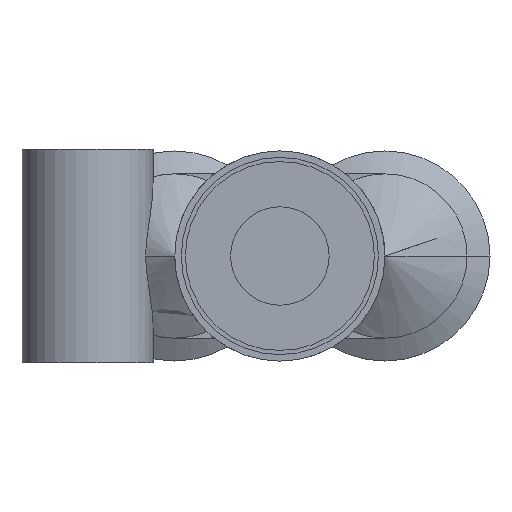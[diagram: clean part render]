
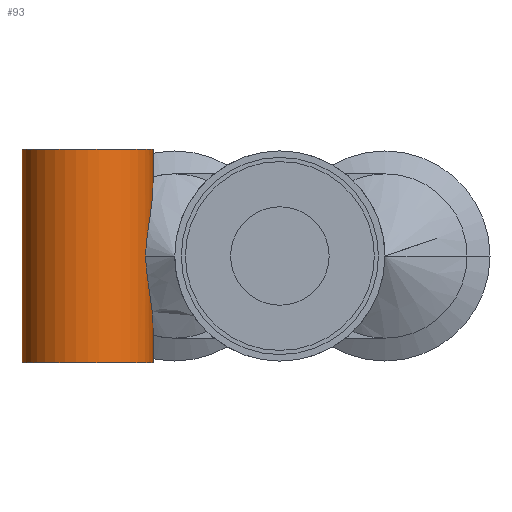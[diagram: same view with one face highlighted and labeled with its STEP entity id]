
A CAD part, front view. The second image highlights one B-rep face of the part: STEP entity #93.
In plain terms, the highlighted cylindrical face has radius 4 mm (diameter 8 mm), a partial arc.
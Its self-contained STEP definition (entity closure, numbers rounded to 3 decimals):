
#93 = ADVANCED_FACE( '', ( #184 ), #185, .T. );
#184 = FACE_OUTER_BOUND( '', #342, .T. );
#185 = CYLINDRICAL_SURFACE( '', #343, 4. );
#342 = EDGE_LOOP( '', ( #600, #601, #602, #603, #604, #605, #606 ) );
#343 = AXIS2_PLACEMENT_3D( '', #607, #608, #609 );
#600 = ORIENTED_EDGE( '', *, *, #1064, .F. );
#601 = ORIENTED_EDGE( '', *, *, #1065, .F. );
#602 = ORIENTED_EDGE( '', *, *, #1066, .F. );
#603 = ORIENTED_EDGE( '', *, *, #1067, .T. );
#604 = ORIENTED_EDGE( '', *, *, #1068, .F. );
#605 = ORIENTED_EDGE( '', *, *, #1011, .F. );
#606 = ORIENTED_EDGE( '', *, *, #1069, .F. );
#607 = CARTESIAN_POINT( '', ( -11.7, 18.3, 6.5 ) );
#608 = DIRECTION( '', ( 0., 0., 1. ) );
#609 = DIRECTION( '', ( 1., 0., 0. ) );
#1011 = EDGE_CURVE( '', #1184, #1187, #1188, .T. );
#1064 = EDGE_CURVE( '', #1285, #1286, #1287, .T. );
#1065 = EDGE_CURVE( '', #1288, #1285, #1289, .T. );
#1066 = EDGE_CURVE( '', #1290, #1288, #1291, .T. );
#1067 = EDGE_CURVE( '', #1290, #1292, #1293, .T. );
#1068 = EDGE_CURVE( '', #1187, #1292, #1294, .T. );
#1069 = EDGE_CURVE( '', #1286, #1184, #1295, .T. );
#1184 = VERTEX_POINT( '', #1446 );
#1187 = VERTEX_POINT( '', #1450 );
#1188 = B_SPLINE_CURVE_WITH_KNOTS( '', 3, ( #1451, #1452, #1453, #1454, #1455, #1456, #1457, #1458, #1459, #1460, #1461, #1462, #1463, #1464, #1465, #1466, #1467, #1468, #1469, #1470, #1471, #1472, #1473, #1474, #1475, #1476 ), .UNSPECIFIED., .F., .F., ( 4, 2, 2, 2, 2, 2, 2, 2, 2, 2, 2, 2, 4 ), ( 1.316, 1.604, 3.209, 4.011, 4.813, 5.616, 6.418, 7.22, 8.022, 8.824, 9.627, 11.231, 11.519 ), .UNSPECIFIED. );
#1285 = VERTEX_POINT( '', #1662 );
#1286 = VERTEX_POINT( '', #1663 );
#1287 = LINE( '', #1664, #1665 );
#1288 = VERTEX_POINT( '', #1666 );
#1289 = CIRCLE( '', #1667, 4. );
#1290 = VERTEX_POINT( '', #1668 );
#1291 = LINE( '', #1669, #1670 );
#1292 = VERTEX_POINT( '', #1671 );
#1293 = CIRCLE( '', #1672, 4. );
#1294 = LINE( '', #1673, #1674 );
#1295 = B_SPLINE_CURVE_WITH_KNOTS( '', 3, ( #1675, #1676, #1677, #1678, #1679, #1680, #1681, #1682, #1683, #1684, #1685, #1686, #1687, #1688, #1689, #1690, #1691, #1692, #1693, #1694, #1695, #1696, #1697, #1698, #1699, #1700 ), .UNSPECIFIED., .F., .F., ( 4, 2, 2, 2, 2, 2, 2, 2, 2, 2, 2, 2, 4 ), ( 1.316, 1.604, 3.209, 4.011, 4.813, 5.616, 6.418, 7.22, 8.022, 8.824, 9.627, 11.231, 11.519 ), .UNSPECIFIED. );
#1446 = CARTESIAN_POINT( '', ( -8.167, 16.425, 0. ) );
#1450 = CARTESIAN_POINT( '', ( -7.7, 18.3, -4.828 ) );
#1451 = CARTESIAN_POINT( '', ( -7.7, 18.3, 4.828 ) );
#1452 = CARTESIAN_POINT( '', ( -7.7, 18.251, 4.74 ) );
#1453 = CARTESIAN_POINT( '', ( -7.701, 18.202, 4.652 ) );
#1454 = CARTESIAN_POINT( '', ( -7.713, 17.88, 4.072 ) );
#1455 = CARTESIAN_POINT( '', ( -7.752, 17.609, 3.571 ) );
#1456 = CARTESIAN_POINT( '', ( -7.842, 17.234, 2.818 ) );
#1457 = CARTESIAN_POINT( '', ( -7.878, 17.115, 2.567 ) );
#1458 = CARTESIAN_POINT( '', ( -7.953, 16.895, 2.063 ) );
#1459 = CARTESIAN_POINT( '', ( -7.993, 16.794, 1.811 ) );
#1460 = CARTESIAN_POINT( '', ( -8.068, 16.622, 1.304 ) );
#1461 = CARTESIAN_POINT( '', ( -8.102, 16.551, 1.048 ) );
#1462 = CARTESIAN_POINT( '', ( -8.152, 16.452, 0.53 ) );
#1463 = CARTESIAN_POINT( '', ( -8.167, 16.425, 0.267 ) );
#1464 = CARTESIAN_POINT( '', ( -8.167, 16.425, -0.267 ) );
#1465 = CARTESIAN_POINT( '', ( -8.152, 16.452, -0.53 ) );
#1466 = CARTESIAN_POINT( '', ( -8.102, 16.551, -1.048 ) );
#1467 = CARTESIAN_POINT( '', ( -8.068, 16.622, -1.304 ) );
#1468 = CARTESIAN_POINT( '', ( -7.993, 16.794, -1.811 ) );
#1469 = CARTESIAN_POINT( '', ( -7.953, 16.895, -2.063 ) );
#1470 = CARTESIAN_POINT( '', ( -7.878, 17.115, -2.567 ) );
#1471 = CARTESIAN_POINT( '', ( -7.842, 17.234, -2.818 ) );
#1472 = CARTESIAN_POINT( '', ( -7.752, 17.609, -3.571 ) );
#1473 = CARTESIAN_POINT( '', ( -7.713, 17.88, -4.072 ) );
#1474 = CARTESIAN_POINT( '', ( -7.701, 18.202, -4.652 ) );
#1475 = CARTESIAN_POINT( '', ( -7.7, 18.251, -4.74 ) );
#1476 = CARTESIAN_POINT( '', ( -7.7, 18.3, -4.828 ) );
#1662 = CARTESIAN_POINT( '', ( -7.7, 18.3, 6.5 ) );
#1663 = CARTESIAN_POINT( '', ( -7.7, 18.3, 4.828 ) );
#1664 = CARTESIAN_POINT( '', ( -7.7, 18.3, 6.5 ) );
#1665 = VECTOR( '', #2040, 1. );
#1666 = CARTESIAN_POINT( '', ( -15.7, 18.3, 6.5 ) );
#1667 = AXIS2_PLACEMENT_3D( '', #2041, #2042, #2043 );
#1668 = CARTESIAN_POINT( '', ( -15.7, 18.3, -6.5 ) );
#1669 = CARTESIAN_POINT( '', ( -15.7, 18.3, 6.5 ) );
#1670 = VECTOR( '', #2044, 1. );
#1671 = CARTESIAN_POINT( '', ( -7.7, 18.3, -6.5 ) );
#1672 = AXIS2_PLACEMENT_3D( '', #2045, #2046, #2047 );
#1673 = CARTESIAN_POINT( '', ( -7.7, 18.3, 6.5 ) );
#1674 = VECTOR( '', #2048, 1. );
#1675 = CARTESIAN_POINT( '', ( -7.7, 18.3, 4.828 ) );
#1676 = CARTESIAN_POINT( '', ( -7.7, 18.251, 4.74 ) );
#1677 = CARTESIAN_POINT( '', ( -7.701, 18.202, 4.652 ) );
#1678 = CARTESIAN_POINT( '', ( -7.713, 17.88, 4.072 ) );
#1679 = CARTESIAN_POINT( '', ( -7.752, 17.609, 3.571 ) );
#1680 = CARTESIAN_POINT( '', ( -7.842, 17.234, 2.818 ) );
#1681 = CARTESIAN_POINT( '', ( -7.878, 17.115, 2.567 ) );
#1682 = CARTESIAN_POINT( '', ( -7.953, 16.895, 2.063 ) );
#1683 = CARTESIAN_POINT( '', ( -7.993, 16.794, 1.811 ) );
#1684 = CARTESIAN_POINT( '', ( -8.068, 16.622, 1.304 ) );
#1685 = CARTESIAN_POINT( '', ( -8.102, 16.551, 1.048 ) );
#1686 = CARTESIAN_POINT( '', ( -8.152, 16.452, 0.53 ) );
#1687 = CARTESIAN_POINT( '', ( -8.167, 16.425, 0.267 ) );
#1688 = CARTESIAN_POINT( '', ( -8.167, 16.425, -0.267 ) );
#1689 = CARTESIAN_POINT( '', ( -8.152, 16.452, -0.53 ) );
#1690 = CARTESIAN_POINT( '', ( -8.102, 16.551, -1.048 ) );
#1691 = CARTESIAN_POINT( '', ( -8.068, 16.622, -1.304 ) );
#1692 = CARTESIAN_POINT( '', ( -7.993, 16.794, -1.811 ) );
#1693 = CARTESIAN_POINT( '', ( -7.953, 16.895, -2.063 ) );
#1694 = CARTESIAN_POINT( '', ( -7.878, 17.115, -2.567 ) );
#1695 = CARTESIAN_POINT( '', ( -7.842, 17.234, -2.818 ) );
#1696 = CARTESIAN_POINT( '', ( -7.752, 17.609, -3.571 ) );
#1697 = CARTESIAN_POINT( '', ( -7.713, 17.88, -4.072 ) );
#1698 = CARTESIAN_POINT( '', ( -7.701, 18.202, -4.652 ) );
#1699 = CARTESIAN_POINT( '', ( -7.7, 18.251, -4.74 ) );
#1700 = CARTESIAN_POINT( '', ( -7.7, 18.3, -4.828 ) );
#2040 = DIRECTION( '', ( 0., 0., -1. ) );
#2041 = CARTESIAN_POINT( '', ( -11.7, 18.3, 6.5 ) );
#2042 = DIRECTION( '', ( 0., 0., 1. ) );
#2043 = DIRECTION( '', ( 1., 0., 0. ) );
#2044 = DIRECTION( '', ( 0., 0., 1. ) );
#2045 = CARTESIAN_POINT( '', ( -11.7, 18.3, -6.5 ) );
#2046 = DIRECTION( '', ( 0., 0., 1. ) );
#2047 = DIRECTION( '', ( 1., 0., 0. ) );
#2048 = DIRECTION( '', ( 0., 0., -1. ) );
